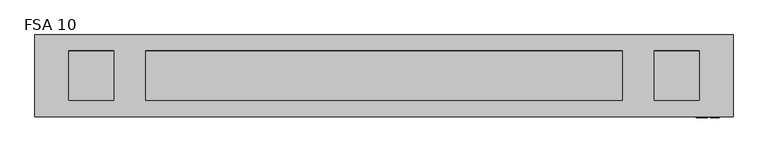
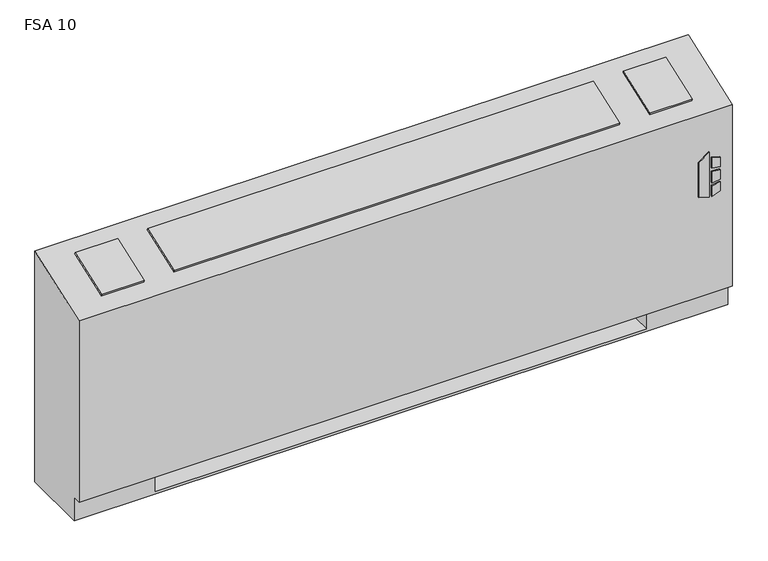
"""IFC4 building model written with IfcOpenShell, lengths in millimetres: proxy geometry, Vertical_Fan_Coil_Unit_-_FSA_-_IEC_-_2-Pipe_TS-FR_LH_2022 : FSA 10."""

from ifc_helpers import new_model, si_unit, point, frame, frame_2d, origin, place, context, project, spatial, polyline, circle_curve, trimmed, segment, composite_curve, outline, extrude, source, transform, mapped, element, save
from ifc_brep_helpers import plane_surface, revolved_surface, advanced_brep


def fsa_10_67577d47(model_context):
    return source(origin(), model_context, "Body", "SolidModel", [
        extrude(outline(polyline([(391.6086829, 1027.1868862), (381.6606126, 1059.3602728), (523.831537, 1059.3602728), (500.8095309, 1027.1868862), (391.6086829, 1027.1868862)])), frame((0.0, 12.7, 0.0), z_axis=(0.0, 1.0, 0.0), x_axis=(0.0, 0.0, 1.0)), (0.0, 0.0, 1.0), 3.175),
        extrude(outline(polyline([(470.6079683, 1066.1186058), (467.4055757, 1092.2), (496.6344168, 1092.2), (504.6988318, 1066.1186058), (470.6079683, 1066.1186058)])), frame((0.0, 12.7, 0.0), z_axis=(0.0, 1.0, 0.0), x_axis=(0.0, 0.0, 1.0)), (0.0, 0.0, 1.0), 3.175),
        extrude(outline(polyline([(418.7444414, 1092.2), (415.0789404, 1066.1186058), (381.6606126, 1066.1186058), (390.2948498, 1092.2), (418.7444414, 1092.2)])), frame((0.0, 12.7, 0.0), z_axis=(0.0, 1.0, 0.0), x_axis=(0.0, 0.0, 1.0)), (0.0, 0.0, 1.0), 3.175),
        extrude(outline(polyline([(458.0596028, 1092.2), (460.3414292, 1066.1186058), (424.4038806, 1066.1186058), (427.1451456, 1092.2), (458.0596028, 1092.2)])), frame((0.0, 12.7, 0.0), z_axis=(0.0, 1.0, 0.0), x_axis=(0.0, 0.0, 1.0)), (0.0, 0.0, 1.0), 3.175),
        extrude(outline(polyline([(1009.65, 223.266), (1009.65, 81.534), (889.0, 81.534), (889.0, 223.266), (1009.65, 223.266)])), frame((0.0, 0.0, 327.025), z_axis=(0.0, 0.0, 1.0), x_axis=(1.0, 0.0, 0.0)), (0.0, 0.0, 1.0), 260.35),
        extrude(outline(composite_curve([segment(trimmed(circle_curve(frame_2d((-647.7, 130.175)), 9.525), [point((-657.225, 130.175))], [point((-638.175, 130.175))], False, "CARTESIAN"), True, "CONTINUOUS"), segment(trimmed(circle_curve(frame_2d((-647.7, 130.175)), 9.525), [point((-638.175, 130.175))], [point((-657.225, 130.175))], False, "CARTESIAN"), True, "CONTINUOUS")], self_intersect=False)), frame((0.0, 0.0, 101.6), z_axis=(0.0, 0.0, 1.0), x_axis=(1.0, 0.0, 0.0)), (0.0, 0.0, 1.0), 25.4),
        extrude(outline(polyline([(-749.3, 63.5), (-749.3, 196.85), (-584.2, 196.85), (-584.2, 63.5), (-749.3, 63.5)])), frame((0.0, 0.0, 127.0), z_axis=(0.0, 0.0, 1.0), x_axis=(1.0, 0.0, 0.0)), (0.0, 0.0, 1.0), 50.8),
        extrude(outline(polyline([(0.0, -146.0500001), (0.0, 0.0), (127.0, 0.0), (127.0, -146.0500001), (0.0, -146.0500001)])), frame((-731.393, 200.4217127, 714.3418685), z_axis=(0.0, -0.3396444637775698, 0.9405538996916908), x_axis=(1.0, 0.0, 0.0)), (0.0, 0.0, 1.0), 6.35),
        extrude(outline(polyline([(0.0, -146.0500001), (0.0, 0.0), (1333.5, 0.0), (1333.5, -146.0500001), (0.0, -146.0500001)])), frame((819.15, 63.0538156, 664.7367945), z_axis=(0.0, -0.33964446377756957, 0.9405538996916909), x_axis=(-1.0, 0.0, 0.0)), (0.0, 0.0, 1.0), 6.35),
        extrude(outline(polyline([(0.0, -146.0500001), (0.0, 0.0), (127.0, 0.0), (127.0, -146.0500001), (0.0, -146.0500001)])), frame((1036.193, 63.0538156, 664.7367945), z_axis=(0.0, -0.3396444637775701, 0.9405538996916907), x_axis=(-1.0, 0.0, 0.0)), (0.0, 0.0, 1.0), 6.35),
        extrude(outline(composite_curve([segment(trimmed(circle_curve(frame_2d((109.347, 456.819)), 7.9375), [point((109.347, 464.7565))], [point((109.347, 448.8815))], False, "CARTESIAN"), True, "CONTINUOUS"), segment(trimmed(circle_curve(frame_2d((109.347, 456.819)), 7.9375), [point((109.347, 448.8815))], [point((109.347, 464.7565))], False, "CARTESIAN"), True, "CONTINUOUS")], self_intersect=False)), frame((-635.0, 0.0, 0.0), z_axis=(1.0, 0.0, 0.0), x_axis=(0.0, 1.0, 0.0)), (0.0, 0.0, 1.0), 50.8),
        extrude(outline(composite_curve([segment(trimmed(circle_curve(frame_2d((157.4546, 429.4632)), 7.9375), [point((157.4546, 437.4007))], [point((157.4546, 421.5257))], False, "CARTESIAN"), True, "CONTINUOUS"), segment(trimmed(circle_curve(frame_2d((157.4546, 429.4632)), 7.9375), [point((157.4546, 421.5257))], [point((157.4546, 437.4007))], False, "CARTESIAN"), True, "CONTINUOUS")], self_intersect=False)), frame((-635.0, 0.0, 0.0), z_axis=(1.0, 0.0, 0.0), x_axis=(0.0, 1.0, 0.0)), (0.0, 0.0, 1.0), 50.8),
        advanced_brep(
        [(-825.5, 244.475, 0.0), (1130.3, 244.475, 0.0), (1130.3, 41.275, 0.0), (-825.5, 41.275, 0.0), (-825.5, 244.475, 730.25), (1130.3, 244.475, 730.25), (889.0, 244.475, 73.025), (1117.6, 244.475, 73.025), (1117.6, 244.475, 654.05), (889.0, 244.475, 654.05), (889.0, 244.475, 414.8650565), (917.575, 244.475, 414.8650565), (917.575, 244.475, 385.2349435), (889.0, 244.475, 385.2349435), (889.0, 244.475, 287.3375), (917.575, 244.475, 287.3375), (917.575, 244.475, 258.7625), (889.0, 244.475, 258.7625), (889.0, 244.475, 141.2875), (917.575, 244.475, 141.2875), (917.575, 244.475, 112.7125), (889.0, 244.475, 112.7125), (-584.2, 244.475, 654.05), (-812.8, 244.475, 654.05), (-812.8, 244.475, 73.025), (-584.2, 244.475, 73.025), (-584.2, 244.475, 112.7125), (-612.775, 244.475, 112.7125), (-612.775, 244.475, 141.2875), (-584.2, 244.475, 141.2875), (-584.2, 244.475, 258.7625), (-612.775, 244.475, 258.7625), (-612.775, 244.475, 287.3375), (-584.2, 244.475, 287.3375), (-584.2, 244.475, 385.2349435), (-612.775, 244.475, 385.2349435), (-612.775, 244.475, 414.8650565), (-584.2, 244.475, 414.8650565), (907.2626, 244.475, 127.0), (896.1374, 244.475, 127.0), (907.2626, 244.475, 400.05), (896.1374, 244.475, 400.05), (907.2626, 244.475, 273.05), (896.1374, 244.475, 273.05), (-591.3374, 244.475, 127.0), (-602.4626, 244.475, 127.0), (-591.3374, 244.475, 273.05), (-602.4626, 244.475, 273.05), (-591.3374, 244.475, 400.05), (-602.4626, 244.475, 400.05), (-825.5, 41.275, 73.025), (-825.5, 15.875, 73.025), (-825.5, 15.875, 647.7), (1130.3, 15.875, 73.025), (1130.3, 15.875, 647.7), (1130.3, 41.275, 73.025), (-584.2, 41.275, 73.025), (-584.2, 225.425, 73.025), (889.0, 225.425, 73.025), (889.0, 41.275, 73.025), (889.0, 41.275, 6.35), (-584.2, 41.275, 6.35), (889.0, 41.275, 654.05), (1117.6, 41.275, 654.05), (1117.6, 41.275, 73.025), (889.0, 41.275, 73.025), (-584.2, 41.275, 654.05), (-584.2, 41.275, 73.025), (-812.8, 41.275, 73.025), (-812.8, 41.275, 654.05), (889.0, 225.425, 73.025), (889.0, 238.125, 112.7125), (889.0, 238.125, 141.2875), (889.0, 238.125, 258.7625), (889.0, 238.125, 287.3375), (889.0, 238.125, 385.2349435), (889.0, 238.125, 414.8650565), (-584.2, 225.425, 73.025), (-584.2, 238.125, 414.8650565), (-584.2, 238.125, 385.2349435), (-584.2, 238.125, 287.3375), (-584.2, 238.125, 258.7625), (-584.2, 238.125, 141.2875), (-584.2, 238.125, 112.7125), (-584.2, 225.425, 6.35), (889.0, 225.425, 6.35), (917.575, 238.125, 112.7125), (917.575, 238.125, 141.2875), (896.1374, 238.125, 127.0), (907.2626, 238.125, 127.0), (917.575, 238.125, 258.7625), (917.575, 238.125, 287.3375), (896.1374, 238.125, 273.05), (907.2626, 238.125, 273.05), (917.575, 238.125, 385.2349435), (917.575, 238.125, 414.8650565), (896.1374, 238.125, 400.05), (907.2626, 238.125, 400.05), (-612.775, 238.125, 141.2875), (-612.775, 238.125, 112.7125), (-602.4626, 238.125, 127.0), (-591.3374, 238.125, 127.0), (-612.775, 238.125, 287.3375), (-612.775, 238.125, 258.7625), (-602.4626, 238.125, 273.05), (-591.3374, 238.125, 273.05), (-612.775, 238.125, 414.8650565), (-612.775, 238.125, 385.2349435), (-602.4626, 238.125, 400.05), (-591.3374, 238.125, 400.05)],
        [
            (0, 1),
            (1, 2),
            (2, 3),
            (3, 0),
            (0, 4),
            (4, 5),
            (5, 1),
            (6, 7),
            (7, 8),
            (8, 9),
            (9, 10),
            (10, 11),
            (11, 12),
            (12, 13),
            (13, 14),
            (14, 15),
            (15, 16),
            (16, 17),
            (17, 18),
            (18, 19),
            (19, 20),
            (20, 21),
            (21, 6),
            (22, 23),
            (23, 24),
            (24, 25),
            (25, 26),
            (26, 27),
            (27, 28),
            (28, 29),
            (29, 30),
            (30, 31),
            (31, 32),
            (32, 33),
            (33, 34),
            (34, 35),
            (35, 36),
            (36, 37),
            (37, 22),
            (38, 39, circle_curve(frame((901.7, 244.475, 127.0), z_axis=(0.0, -1.0, 0.0), x_axis=(-1.0, 0.0, 0.0)), 5.5626)),
            (39, 38, circle_curve(frame((901.7, 244.475, 127.0), z_axis=(0.0, -1.0, 0.0), x_axis=(-1.0, 0.0, 0.0)), 5.5626)),
            (40, 41, circle_curve(frame((901.7, 244.475, 400.05), z_axis=(0.0, -1.0, 0.0), x_axis=(-1.0, 0.0, 0.0)), 5.5626)),
            (41, 40, circle_curve(frame((901.7, 244.475, 400.05), z_axis=(0.0, -1.0, 0.0), x_axis=(-1.0, 0.0, 0.0)), 5.5626)),
            (42, 43, circle_curve(frame((901.7, 244.475, 273.05), z_axis=(0.0, -1.0, 0.0), x_axis=(-1.0, 0.0, 0.0)), 5.5626)),
            (43, 42, circle_curve(frame((901.7, 244.475, 273.05), z_axis=(0.0, -1.0, 0.0), x_axis=(-1.0, 0.0, 0.0)), 5.5626)),
            (44, 45, circle_curve(frame((-596.9, 244.475, 127.0), z_axis=(0.0, -1.0, 0.0), x_axis=(-1.0, 0.0, 0.0)), 5.5626)),
            (45, 44, circle_curve(frame((-596.9, 244.475, 127.0), z_axis=(0.0, -1.0, 0.0), x_axis=(-1.0, 0.0, 0.0)), 5.5626)),
            (46, 47, circle_curve(frame((-596.9, 244.475, 273.05), z_axis=(0.0, -1.0, 0.0), x_axis=(-1.0, 0.0, 0.0)), 5.5626)),
            (47, 46, circle_curve(frame((-596.9, 244.475, 273.05), z_axis=(0.0, -1.0, 0.0), x_axis=(-1.0, 0.0, 0.0)), 5.5626)),
            (48, 49, circle_curve(frame((-596.9, 244.475, 400.05), z_axis=(0.0, -1.0, 0.0), x_axis=(-1.0, 0.0, 0.0)), 5.5626)),
            (49, 48, circle_curve(frame((-596.9, 244.475, 400.05), z_axis=(0.0, -1.0, 0.0), x_axis=(-1.0, 0.0, 0.0)), 5.5626)),
            (3, 50),
            (50, 51),
            (51, 52),
            (52, 4),
            (51, 53),
            (53, 54),
            (54, 52),
            (5, 54),
            (53, 55),
            (55, 2),
            (50, 56),
            (56, 57),
            (57, 58),
            (58, 59),
            (59, 55),
            (59, 60),
            (60, 61),
            (61, 56),
            (62, 63),
            (63, 64),
            (64, 65),
            (65, 62),
            (66, 67),
            (67, 68),
            (68, 69),
            (69, 66),
            (65, 70),
            (70, 6),
            (21, 71),
            (71, 72),
            (72, 18),
            (17, 73),
            (73, 74),
            (74, 14),
            (13, 75),
            (75, 76),
            (76, 10),
            (9, 62),
            (64, 7),
            (63, 8),
            (69, 23),
            (22, 66),
            (68, 24),
            (67, 77),
            (77, 25),
            (37, 78),
            (78, 79),
            (79, 34),
            (33, 80),
            (80, 81),
            (81, 30),
            (29, 82),
            (82, 83),
            (83, 26),
            (57, 84),
            (84, 85),
            (85, 58),
            (85, 60),
            (84, 61),
            (71, 86),
            (86, 87),
            (87, 72),
            (88, 89, circle_curve(frame((901.7, 238.125, 127.0), z_axis=(0.0, 1.0, 0.0), x_axis=(-1.0, 0.0, 0.0)), 5.5626)),
            (89, 88, circle_curve(frame((901.7, 238.125, 127.0), z_axis=(0.0, 1.0, 0.0), x_axis=(-1.0, 0.0, 0.0)), 5.5626)),
            (73, 90),
            (90, 91),
            (91, 74),
            (92, 93, circle_curve(frame((901.7, 238.125, 273.05), z_axis=(0.0, 1.0, 0.0), x_axis=(-1.0, 0.0, 0.0)), 5.5626)),
            (93, 92, circle_curve(frame((901.7, 238.125, 273.05), z_axis=(0.0, 1.0, 0.0), x_axis=(-1.0, 0.0, 0.0)), 5.5626)),
            (75, 94),
            (94, 95),
            (95, 76),
            (96, 97, circle_curve(frame((901.7, 238.125, 400.05), z_axis=(0.0, 1.0, 0.0), x_axis=(-1.0, 0.0, 0.0)), 5.5626)),
            (97, 96, circle_curve(frame((901.7, 238.125, 400.05), z_axis=(0.0, 1.0, 0.0), x_axis=(-1.0, 0.0, 0.0)), 5.5626)),
            (98, 99),
            (99, 83),
            (82, 98),
            (100, 101, circle_curve(frame((-596.9, 238.125, 127.0), z_axis=(0.0, 1.0, 0.0), x_axis=(-1.0, 0.0, 0.0)), 5.5626)),
            (101, 100, circle_curve(frame((-596.9, 238.125, 127.0), z_axis=(0.0, 1.0, 0.0), x_axis=(-1.0, 0.0, 0.0)), 5.5626)),
            (102, 103),
            (103, 81),
            (80, 102),
            (104, 105, circle_curve(frame((-596.9, 238.125, 273.05), z_axis=(0.0, 1.0, 0.0), x_axis=(-1.0, 0.0, 0.0)), 5.5626)),
            (105, 104, circle_curve(frame((-596.9, 238.125, 273.05), z_axis=(0.0, 1.0, 0.0), x_axis=(-1.0, 0.0, 0.0)), 5.5626)),
            (106, 107),
            (107, 79),
            (78, 106),
            (108, 109, circle_curve(frame((-596.9, 238.125, 400.05), z_axis=(0.0, 1.0, 0.0), x_axis=(-1.0, 0.0, 0.0)), 5.5626)),
            (109, 108, circle_curve(frame((-596.9, 238.125, 400.05), z_axis=(0.0, 1.0, 0.0), x_axis=(-1.0, 0.0, 0.0)), 5.5626)),
            (87, 19),
            (86, 20),
            (91, 15),
            (90, 16),
            (95, 11),
            (94, 12),
            (28, 98),
            (99, 27),
            (32, 102),
            (103, 31),
            (36, 106),
            (107, 35),
            (88, 39),
            (38, 89),
            (96, 41),
            (40, 97),
            (92, 43),
            (42, 93),
            (100, 45),
            (44, 101),
            (104, 47),
            (46, 105),
            (108, 49),
            (48, 109),
        ],
        [
            plane_surface(frame((-825.5, 244.475, 0.0), z_axis=(0.0, 0.0, -1.0), x_axis=(1.0, 0.0, 0.0))),
            plane_surface(frame((1130.3, 244.475, 730.25), z_axis=(0.0, 1.0, 0.0), x_axis=(0.0, 0.0, -1.0))),
            plane_surface(frame((-825.5, 244.475, 730.25), z_axis=(-1.0, 0.0, 0.0), x_axis=(0.0, 0.0, -1.0))),
            plane_surface(frame((-825.5, 15.875, 730.25), z_axis=(0.0, -1.0, 0.0), x_axis=(0.0, 0.0, -1.0))),
            plane_surface(frame((1130.3, 15.875, 730.25), z_axis=(1.0, 0.0, 0.0), x_axis=(0.0, 0.0, -1.0))),
            plane_surface(frame((-825.5, 15.875, 73.025), z_axis=(0.0, 0.0, -1.0), x_axis=(1.0, 0.0, 0.0))),
            plane_surface(frame((-825.5, 41.275, 73.025), z_axis=(0.0, -1.0, 0.0), x_axis=(1.0, 0.0, 0.0))),
            plane_surface(frame((889.0, 41.275, 654.05), z_axis=(0.0, 1.0, 0.0), x_axis=(0.0, 0.0, -1.0))),
            plane_surface(frame((889.0, 41.275, 654.05), z_axis=(1.0, 0.0, 0.0), x_axis=(0.0, 1.0, 0.0))),
            plane_surface(frame((889.0, 41.275, 73.025), z_axis=(0.0, 0.0, 1.0), x_axis=(0.0, 1.0, 0.0))),
            plane_surface(frame((1117.6, 41.275, 73.025), z_axis=(-1.0, 0.0, 0.0), x_axis=(0.0, 1.0, 0.0))),
            plane_surface(frame((1117.6, 41.275, 654.05), z_axis=(0.0, 0.0, -1.0), x_axis=(0.0, 1.0, 0.0))),
            plane_surface(frame((-584.2, 41.275, 654.05), z_axis=(0.0, 0.0, -1.0), x_axis=(0.0, 1.0, 0.0))),
            plane_surface(frame((-812.8, 41.275, 654.05), z_axis=(1.0, 0.0, 0.0), x_axis=(0.0, 1.0, 0.0))),
            plane_surface(frame((-812.8, 41.275, 73.025), z_axis=(0.0, 0.0, 1.0), x_axis=(0.0, 1.0, 0.0))),
            plane_surface(frame((-584.2, 41.275, 73.025), z_axis=(-1.0, 0.0, 0.0), x_axis=(0.0, 1.0, 0.0))),
            plane_surface(frame((889.0, 225.425, 73.025), z_axis=(0.0, -1.0, 0.0), x_axis=(0.0, 0.0, -1.0))),
            plane_surface(frame((889.0, 225.425, 73.025), z_axis=(-1.0, 0.0, 0.0), x_axis=(0.0, -1.0, 0.0))),
            plane_surface(frame((889.0, 225.425, 6.35), z_axis=(0.0, 0.0, 1.0), x_axis=(0.0, -1.0, 0.0))),
            plane_surface(frame((-584.2, 225.425, 6.35), z_axis=(1.0, 0.0, 0.0), x_axis=(0.0, -1.0, 0.0))),
            plane_surface(frame((917.575, 238.125, 141.2875), z_axis=(0.0, -1.0, 0.0), x_axis=(-1.0, 0.0, 0.0))),
            plane_surface(frame((889.0, 244.475, 141.2875), z_axis=(0.0, 0.0, 1.0), x_axis=(0.0, -1.0, 0.0))),
            plane_surface(frame((917.575, 244.475, 141.2875), z_axis=(1.0, 0.0, 0.0), x_axis=(0.0, -1.0, 0.0))),
            plane_surface(frame((917.575, 244.475, 112.7125), z_axis=(0.0, 0.0, -1.0), x_axis=(0.0, -1.0, 0.0))),
            plane_surface(frame((889.0, 244.475, 287.3375), z_axis=(0.0, 0.0, 1.0), x_axis=(0.0, -1.0, 0.0))),
            plane_surface(frame((917.575, 244.475, 287.3375), z_axis=(1.0, 0.0, 0.0), x_axis=(0.0, -1.0, 0.0))),
            plane_surface(frame((917.575, 244.475, 258.7625), z_axis=(0.0, 0.0, -1.0), x_axis=(0.0, -1.0, 0.0))),
            plane_surface(frame((889.0, 244.475, 414.8650565), z_axis=(0.0, 0.0, 1.0), x_axis=(0.0, -1.0, 0.0))),
            plane_surface(frame((917.575, 244.475, 414.8650565), z_axis=(1.0, 0.0, 0.0), x_axis=(0.0, -1.0, 0.0))),
            plane_surface(frame((917.575, 244.475, 385.2349435), z_axis=(0.0, 0.0, -1.0), x_axis=(0.0, -1.0, 0.0))),
            plane_surface(frame((-612.775, 244.475, 141.2875), z_axis=(0.0, 0.0, 1.0), x_axis=(0.0, -1.0, 0.0))),
            plane_surface(frame((-584.2, 244.475, 112.7125), z_axis=(0.0, 0.0, -1.0), x_axis=(0.0, -1.0, 0.0))),
            plane_surface(frame((-612.775, 244.475, 112.7125), z_axis=(-1.0, 0.0, 0.0), x_axis=(0.0, -1.0, 0.0))),
            plane_surface(frame((-612.775, 244.475, 287.3375), z_axis=(0.0, 0.0, 1.0), x_axis=(0.0, -1.0, 0.0))),
            plane_surface(frame((-584.2, 244.475, 258.7625), z_axis=(0.0, 0.0, -1.0), x_axis=(0.0, -1.0, 0.0))),
            plane_surface(frame((-612.775, 244.475, 258.7625), z_axis=(-1.0, 0.0, 0.0), x_axis=(0.0, -1.0, 0.0))),
            plane_surface(frame((-612.775, 244.475, 414.8650565), z_axis=(0.0, 0.0, 1.0), x_axis=(0.0, -1.0, 0.0))),
            plane_surface(frame((-584.2, 244.475, 385.2349435), z_axis=(0.0, 0.0, -1.0), x_axis=(0.0, -1.0, 0.0))),
            plane_surface(frame((-612.775, 244.475, 385.2349435), z_axis=(-1.0, 0.0, 0.0), x_axis=(0.0, -1.0, 0.0))),
            revolved_surface(polyline([(896.1374000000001, 238.125, 127.0), (896.1374000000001, 244.475, 127.0)]), (901.7, 244.475, 127.0), (0.0, -1.0, 0.0)),
            revolved_surface(polyline([(896.1374000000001, 238.125, 400.05), (896.1374000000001, 244.475, 400.05)]), (901.7, 244.475, 400.05), (0.0, -1.0, 0.0)),
            revolved_surface(polyline([(896.1374000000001, 238.125, 273.05), (896.1374000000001, 244.475, 273.05)]), (901.7, 244.475, 273.05), (0.0, -1.0, 0.0)),
            revolved_surface(polyline([(-602.4626, 238.125, 127.0), (-602.4626, 244.475, 127.0)]), (-596.9, 244.475, 127.0), (0.0, -1.0, 0.0)),
            revolved_surface(polyline([(-602.4626, 238.125, 273.05), (-602.4626, 244.475, 273.05)]), (-596.9, 244.475, 273.05), (0.0, -1.0, 0.0)),
            revolved_surface(polyline([(-602.4626, 238.125, 400.05), (-602.4626, 244.475, 400.05)]), (-596.9, 244.475, 400.05), (0.0, -1.0, 0.0)),
            plane_surface(frame((-825.5, 244.475, 730.25), z_axis=(0.0, -0.33964446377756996, 0.9405538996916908), x_axis=(1.0, 0.0, 0.0))),
        ],
        [
            (0, [[1, 2, 3, 4]]),
            (1, [[-1, 5, 6, 7], [8, 9, 10, 11, 12, 13, 14, 15, 16, 17, 18, 19, 20, 21, 22, 23], [24, 25, 26, 27, 28, 29, 30, 31, 32, 33, 34, 35, 36, 37, 38, 39], [40, 41], [42, 43], [44, 45], [46, 47], [48, 49], [50, 51]]),
            (2, [[-5, -4, 52, 53, 54, 55]]),
            (3, [[56, 57, 58, -54]]),
            (4, [[-7, 59, -57, 60, 61, -2]]),
            (5, [[-53, 62, 63, 64, 65, 66, -60, -56]]),
            (6, [[-3, -61, -66, 67, 68, 69, -62, -52]]),
            (7, [[70, 71, 72, 73]]),
            (7, [[74, 75, 76, 77]]),
            (8, [[-73, 78, 79, -23, 80, 81, 82, -19, 83, 84, 85, -15, 86, 87, 88, -11, 89]]),
            (9, [[-72, 90, -8, -79, -78]]),
            (10, [[-71, 91, -9, -90]]),
            (11, [[-70, -89, -10, -91]]),
            (12, [[-77, 92, -24, 93]]),
            (13, [[-76, 94, -25, -92]]),
            (14, [[-75, 95, 96, -26, -94]]),
            (15, [[-74, -93, -39, 97, 98, 99, -35, 100, 101, 102, -31, 103, 104, 105, -27, -96, -95]]),
            (16, [[-64, 106, 107, 108]]),
            (17, [[-108, 109, -67, -65]]),
            (18, [[-107, 110, -68, -109]]),
            (19, [[-106, -63, -69, -110]]),
            (20, [[111, 112, 113, -81], [114, 115]]),
            (20, [[116, 117, 118, -84], [119, 120]]),
            (20, [[121, 122, 123, -87], [124, 125]]),
            (20, [[126, 127, -104, 128], [129, 130]]),
            (20, [[131, 132, -101, 133], [134, 135]]),
            (20, [[136, 137, -98, 138], [139, 140]]),
            (21, [[-113, 141, -20, -82]]),
            (22, [[-112, 142, -21, -141]]),
            (23, [[-111, -80, -22, -142]]),
            (24, [[-118, 143, -16, -85]]),
            (25, [[-117, 144, -17, -143]]),
            (26, [[-116, -83, -18, -144]]),
            (27, [[-123, 145, -12, -88]]),
            (28, [[-122, 146, -13, -145]]),
            (29, [[-121, -86, -14, -146]]),
            (30, [[-128, -103, -30, 147]]),
            (31, [[-127, 148, -28, -105]]),
            (32, [[-126, -147, -29, -148]]),
            (33, [[-133, -100, -34, 149]]),
            (34, [[-132, 150, -32, -102]]),
            (35, [[-131, -149, -33, -150]]),
            (36, [[-138, -97, -38, 151]]),
            (37, [[-137, 152, -36, -99]]),
            (38, [[-136, -151, -37, -152]]),
            (39, [[153, -40, 154, -114]]),
            (39, [[-153, -115, -154, -41]]),
            (40, [[155, -42, 156, -124]]),
            (40, [[-155, -125, -156, -43]]),
            (41, [[157, -44, 158, -119]]),
            (41, [[-157, -120, -158, -45]]),
            (42, [[159, -46, 160, -129]]),
            (42, [[-159, -130, -160, -47]]),
            (43, [[161, -48, 162, -134]]),
            (43, [[-161, -135, -162, -49]]),
            (44, [[163, -50, 164, -139]]),
            (44, [[-163, -140, -164, -51]]),
            (45, [[-6, -55, -58, -59]]),
        ],
    ),
    ])


if __name__ == "__main__":
    model = new_model("IFC4")
    model_context = context("Model", 3, world=origin())
    ifc_project = project(units=[si_unit("LENGTHUNIT", "METRE", prefix="MILLI")], contexts=[model_context])
    site = spatial("IfcSite", under=ifc_project)
    building = spatial("IfcBuilding", under=site)
    placement = place(None, origin())
    fsa_10_shape = fsa_10_67577d47(model_context)
    element("IfcBuildingElementProxy", 1, Name="Vertical_Fan_Coil_Unit_-_FSA_-_IEC_-_2-Pipe_TS-FR_LH_2022 : FSA 10", ObjectType="Vertical_Fan_Coil_Unit_-_FSA_-_IEC_-_2-Pipe_TS-FR_LH_2022 : FSA 10", at=placement, inside=building, context=model_context, shape_type="MappedRepresentation", body=[
        mapped(fsa_10_shape, transform((0.0, 0.0, 0.0), x_axis=(1.0, 0.0, 0.0), y_axis=(0.0, 1.0, 0.0), z_axis=(0.0, 0.0, 1.0))),
    ])
    save(model, "model.ifc")
